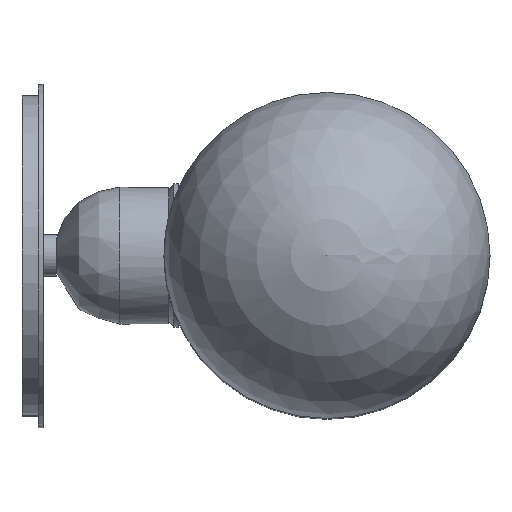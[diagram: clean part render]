
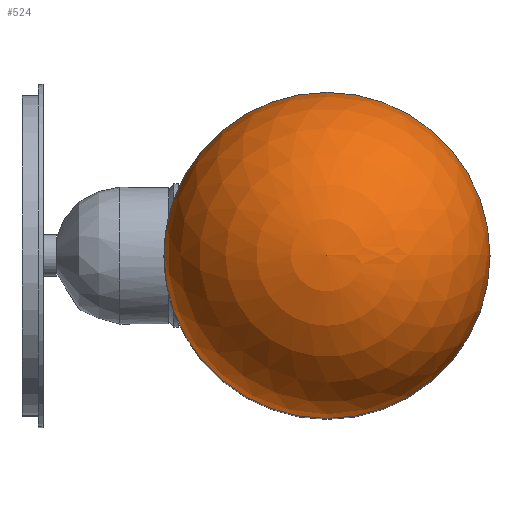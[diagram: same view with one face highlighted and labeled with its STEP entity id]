
A CAD part, top view. The second image highlights one B-rep face of the part: STEP entity #524.
In plain terms, the highlighted spherical face has radius 50 mm.
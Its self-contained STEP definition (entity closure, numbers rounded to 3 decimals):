
#19=SPHERICAL_SURFACE('',#591,50.);
#122=FACE_OUTER_BOUND('',#158,.T.);
#158=EDGE_LOOP('',(#410,#411,#412,#413));
#194=CIRCLE('',#587,50.);
#196=CIRCLE('',#589,50.);
#197=CIRCLE('',#592,50.);
#248=VERTEX_POINT('',#892);
#249=VERTEX_POINT('',#893);
#252=VERTEX_POINT('',#940);
#305=EDGE_CURVE('',#248,#249,#194,.T.);
#308=EDGE_CURVE('',#249,#248,#196,.T.);
#312=EDGE_CURVE('',#252,#249,#197,.T.);
#410=ORIENTED_EDGE('',*,*,#305,.T.);
#411=ORIENTED_EDGE('',*,*,#312,.F.);
#412=ORIENTED_EDGE('',*,*,#312,.T.);
#413=ORIENTED_EDGE('',*,*,#308,.T.);
#524=ADVANCED_FACE('',(#122),#19,.T.);
#587=AXIS2_PLACEMENT_3D('',#894,#666,#667);
#589=AXIS2_PLACEMENT_3D('',#898,#671,#672);
#591=AXIS2_PLACEMENT_3D('',#939,#675,#676);
#592=AXIS2_PLACEMENT_3D('',#941,#677,#678);
#666=DIRECTION('center_axis',(0.,0.,
1.));
#667=DIRECTION('ref_axis',(0.,1.,0.));
#671=DIRECTION('center_axis',(0.,0.,
1.));
#672=DIRECTION('ref_axis',(0.,1.,0.));
#675=DIRECTION('center_axis',(0.,0.,
1.));
#676=DIRECTION('ref_axis',(-1.,0.,0.));
#677=DIRECTION('center_axis',(0.,1.,0.));
#678=DIRECTION('ref_axis',(1.,0.,0.));
#892=CARTESIAN_POINT('',(0.,50.,252.5));
#893=CARTESIAN_POINT('',(50.,0.,252.5));
#894=CARTESIAN_POINT('Origin',(0.,0.,
252.5));
#898=CARTESIAN_POINT('Origin',(0.,0.,
252.5));
#939=CARTESIAN_POINT('Origin',(0.,0.,
252.5));
#940=CARTESIAN_POINT('',(0.,0.,302.5));
#941=CARTESIAN_POINT('Origin',(0.,0.,
252.5));
